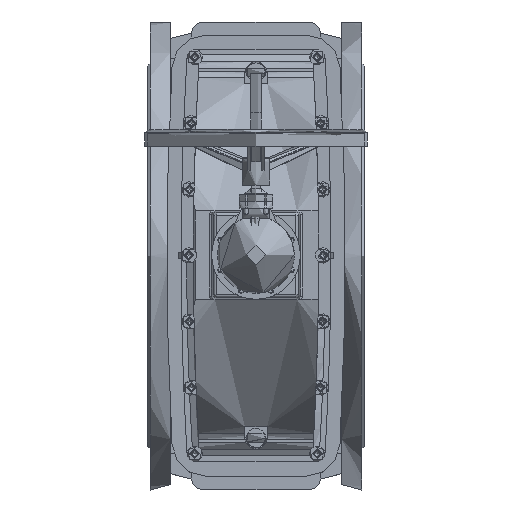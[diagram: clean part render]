
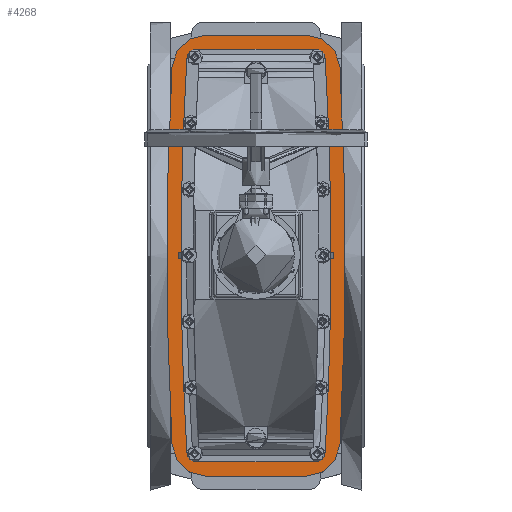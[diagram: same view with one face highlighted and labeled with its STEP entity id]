
A CAD part, top view. The second image highlights one B-rep face of the part: STEP entity #4268.
In plain terms, the highlighted planar face has unit normal (0, 0, 1).
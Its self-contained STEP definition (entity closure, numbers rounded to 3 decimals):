
#4268=ADVANCED_FACE('',(#11167,#11169),#11171,.T.);
#11167=FACE_BOUND('',#11168,.T.);
#11168=EDGE_LOOP('',(#32147,#32148,#32149,#32150,#32151,#32152,#32153,#32154));
#11169=FACE_BOUND('',#11170,.T.);
#11170=EDGE_LOOP('',(#32155,#32156,#32157,#32158,#32159,#32160,#32161,#32162,#32163,
#32164,#32165,#32166,#32167,#32168,#32169,#32170));
#11171=PLANE('',#11172);
#11172=AXIS2_PLACEMENT_3D('',#11173,#11174,#11175);
#11173=CARTESIAN_POINT('',(0.,0.,512.785));
#11174=DIRECTION('',(0.,0.,1.));
#11175=DIRECTION('',(-1.,0.,0.));
#32147=ORIENTED_EDGE('',*,*,#36699,.T.);
#32148=ORIENTED_EDGE('',*,*,#36697,.T.);
#32149=ORIENTED_EDGE('',*,*,#36695,.T.);
#32150=ORIENTED_EDGE('',*,*,#36693,.T.);
#32151=ORIENTED_EDGE('',*,*,#36691,.T.);
#32152=ORIENTED_EDGE('',*,*,#36689,.T.);
#32153=ORIENTED_EDGE('',*,*,#36687,.T.);
#32154=ORIENTED_EDGE('',*,*,#36685,.T.);
#32155=ORIENTED_EDGE('',*,*,#36704,.F.);
#32156=ORIENTED_EDGE('',*,*,#36705,.F.);
#32157=ORIENTED_EDGE('',*,*,#36706,.T.);
#32158=ORIENTED_EDGE('',*,*,#36707,.T.);
#32159=ORIENTED_EDGE('',*,*,#36708,.T.);
#32160=ORIENTED_EDGE('',*,*,#36709,.T.);
#32161=ORIENTED_EDGE('',*,*,#36710,.T.);
#32162=ORIENTED_EDGE('',*,*,#36711,.F.);
#32163=ORIENTED_EDGE('',*,*,#36712,.F.);
#32164=ORIENTED_EDGE('',*,*,#36713,.F.);
#32165=ORIENTED_EDGE('',*,*,#36714,.T.);
#32166=ORIENTED_EDGE('',*,*,#36715,.T.);
#32167=ORIENTED_EDGE('',*,*,#36716,.T.);
#32168=ORIENTED_EDGE('',*,*,#36717,.T.);
#32169=ORIENTED_EDGE('',*,*,#36718,.T.);
#32170=ORIENTED_EDGE('',*,*,#36719,.F.);
#36685=EDGE_CURVE('',#40552,#40550,#40553,.T.);
#36687=EDGE_CURVE('',#40555,#40552,#40556,.T.);
#36689=EDGE_CURVE('',#40558,#40555,#40559,.T.);
#36691=EDGE_CURVE('',#40561,#40558,#40562,.T.);
#36693=EDGE_CURVE('',#40564,#40561,#40565,.T.);
#36695=EDGE_CURVE('',#40567,#40564,#40568,.T.);
#36697=EDGE_CURVE('',#40570,#40567,#40571,.T.);
#36699=EDGE_CURVE('',#40550,#40570,#40573,.T.);
#36704=EDGE_CURVE('',#40582,#40583,#40584,.T.);
#36705=EDGE_CURVE('',#40585,#40582,#40586,.F.);
#36706=EDGE_CURVE('',#40585,#40587,#40588,.F.);
#36707=EDGE_CURVE('',#40587,#40589,#40590,.T.);
#36708=EDGE_CURVE('',#40589,#40591,#40592,.T.);
#36709=EDGE_CURVE('',#40591,#40593,#40594,.T.);
#36710=EDGE_CURVE('',#40593,#40595,#40596,.F.);
#36711=EDGE_CURVE('',#40597,#40595,#40598,.F.);
#36712=EDGE_CURVE('',#40599,#40597,#40600,.T.);
#36713=EDGE_CURVE('',#40601,#40599,#40602,.T.);
#36714=EDGE_CURVE('',#40601,#40603,#40604,.F.);
#36715=EDGE_CURVE('',#40603,#40605,#40606,.T.);
#36716=EDGE_CURVE('',#40605,#40607,#40608,.T.);
#36717=EDGE_CURVE('',#40607,#40609,#40610,.T.);
#36718=EDGE_CURVE('',#40609,#40611,#40612,.F.);
#36719=EDGE_CURVE('',#40583,#40611,#40613,.T.);
#40550=VERTEX_POINT('',#52487);
#40552=VERTEX_POINT('',#52491);
#40553=CIRCLE('',#52492,5978.392);
#40555=VERTEX_POINT('',#52499);
#40556=CIRCLE('',#52500,60.);
#40558=VERTEX_POINT('',#52507);
#40559=LINE('',#52508,#52509);
#40561=VERTEX_POINT('',#52514);
#40562=CIRCLE('',#52515,60.);
#40564=VERTEX_POINT('',#52522);
#40565=CIRCLE('',#52523,5978.392);
#40567=VERTEX_POINT('',#52530);
#40568=CIRCLE('',#52531,60.);
#40570=VERTEX_POINT('',#52538);
#40571=LINE('',#52539,#52540);
#40573=CIRCLE('',#52545,60.);
#40582=VERTEX_POINT('',#52633);
#40583=VERTEX_POINT('',#52634);
#40584=LINE('',#52635,#52636);
#40585=VERTEX_POINT('',#52638);
#40586=LINE('',#52639,#52640);
#40587=VERTEX_POINT('',#52642);
#40588=CIRCLE('',#52643,5930.392);
#40589=VERTEX_POINT('',#52647);
#40590=CIRCLE('',#52648,12.);
#40591=VERTEX_POINT('',#52652);
#40592=LINE('',#52653,#52654);
#40593=VERTEX_POINT('',#52656);
#40594=CIRCLE('',#52657,12.);
#40595=VERTEX_POINT('',#52661);
#40596=CIRCLE('',#52662,5930.392);
#40597=VERTEX_POINT('',#52666);
#40598=LINE('',#52667,#52668);
#40599=VERTEX_POINT('',#52670);
#40600=LINE('',#52671,#52672);
#40601=VERTEX_POINT('',#52674);
#40602=LINE('',#52675,#52676);
#40603=VERTEX_POINT('',#52678);
#40604=CIRCLE('',#52679,5930.392);
#40605=VERTEX_POINT('',#52683);
#40606=CIRCLE('',#52684,12.);
#40607=VERTEX_POINT('',#52688);
#40608=LINE('',#52689,#52690);
#40609=VERTEX_POINT('',#52692);
#40610=CIRCLE('',#52693,12.);
#40611=VERTEX_POINT('',#52697);
#40612=CIRCLE('',#52698,5930.392);
#40613=LINE('',#52702,#52703);
#52487=CARTESIAN_POINT('',(150.77,339.406,512.785));
#52491=CARTESIAN_POINT('',(150.77,-339.406,512.785));
#52492=AXIS2_PLACEMENT_3D('',#52493,#52494,#52495);
#52493=CARTESIAN_POINT('',(-5817.981,0.,512.785));
#52494=DIRECTION('',(0.,0.,1.));
#52495=DIRECTION('',(0.998,-0.057,0.));
#52499=CARTESIAN_POINT('',(90.866,-396.,512.785));
#52500=AXIS2_PLACEMENT_3D('',#52501,#52502,#52503);
#52501=CARTESIAN_POINT('',(90.866,-336.,512.785));
#52502=DIRECTION('',(0.,0.,1.));
#52503=DIRECTION('',(0.,-1.,0.));
#52507=CARTESIAN_POINT('',(-90.866,-396.,512.785));
#52508=CARTESIAN_POINT('',(-90.866,-396.,512.785));
#52509=VECTOR('',#52510,1.);
#52510=DIRECTION('',(1.,0.,0.));
#52514=CARTESIAN_POINT('',(-150.77,-339.406,512.785));
#52515=AXIS2_PLACEMENT_3D('',#52516,#52517,#52518);
#52516=CARTESIAN_POINT('',(-90.866,-336.,512.785));
#52517=DIRECTION('',(0.,0.,1.));
#52518=DIRECTION('',(-0.998,-0.057,0.));
#52522=CARTESIAN_POINT('',(-150.77,339.406,512.785));
#52523=AXIS2_PLACEMENT_3D('',#52524,#52525,#52526);
#52524=CARTESIAN_POINT('',(5817.981,0.,512.785));
#52525=DIRECTION('',(0.,0.,1.));
#52526=DIRECTION('',(-0.998,0.057,0.));
#52530=CARTESIAN_POINT('',(-90.866,396.,512.785));
#52531=AXIS2_PLACEMENT_3D('',#52532,#52533,#52534);
#52532=CARTESIAN_POINT('',(-90.866,336.,512.785));
#52533=DIRECTION('',(0.,0.,1.));
#52534=DIRECTION('',(0.,1.,0.));
#52538=CARTESIAN_POINT('',(90.866,396.,512.785));
#52539=CARTESIAN_POINT('',(90.866,396.,512.785));
#52540=VECTOR('',#52541,1.);
#52541=DIRECTION('',(-1.,0.,0.));
#52545=AXIS2_PLACEMENT_3D('',#52546,#52547,#52548);
#52546=CARTESIAN_POINT('',(90.866,336.,512.785));
#52547=DIRECTION('',(0.,0.,1.));
#52548=DIRECTION('',(0.998,0.057,0.));
#52633=CARTESIAN_POINT('',(139.449,-6.,512.785));
#52634=CARTESIAN_POINT('',(139.449,6.,512.785));
#52635=CARTESIAN_POINT('',(139.449,-6.,512.785));
#52636=VECTOR('',#52637,1.);
#52637=DIRECTION('',(0.,1.,0.));
#52638=CARTESIAN_POINT('',(112.409,-6.,512.785));
#52639=CARTESIAN_POINT('',(139.449,-6.,512.785));
#52640=VECTOR('',#52641,1.);
#52641=DIRECTION('',(-1.,0.,0.));
#52642=CARTESIAN_POINT('',(102.847,-336.681,512.785));
#52643=AXIS2_PLACEMENT_3D('',#52644,#52645,#52646);
#52644=CARTESIAN_POINT('',(-5817.981,0.,512.785));
#52645=DIRECTION('',(0.,0.,1.));
#52646=DIRECTION('',(0.998,-0.057,0.));
#52647=CARTESIAN_POINT('',(90.866,-348.,512.785));
#52648=AXIS2_PLACEMENT_3D('',#52649,#52650,#52651);
#52649=CARTESIAN_POINT('',(90.866,-336.,512.785));
#52650=DIRECTION('',(0.,0.,-1.));
#52651=DIRECTION('',(0.998,-0.057,0.));
#52652=CARTESIAN_POINT('',(-90.866,-348.,512.785));
#52653=CARTESIAN_POINT('',(90.866,-348.,512.785));
#52654=VECTOR('',#52655,1.);
#52655=DIRECTION('',(-1.,0.,0.));
#52656=CARTESIAN_POINT('',(-102.847,-336.681,512.785));
#52657=AXIS2_PLACEMENT_3D('',#52658,#52659,#52660);
#52658=CARTESIAN_POINT('',(-90.866,-336.,512.785));
#52659=DIRECTION('',(0.,0.,-1.));
#52660=DIRECTION('',(0.,-1.,0.));
#52661=CARTESIAN_POINT('',(-112.409,-6.,512.785));
#52662=AXIS2_PLACEMENT_3D('',#52663,#52664,#52665);
#52663=CARTESIAN_POINT('',(5817.981,0.,512.785));
#52664=DIRECTION('',(0.,0.,1.));
#52665=DIRECTION('',(-1.,-0.001,0.));
#52666=CARTESIAN_POINT('',(-139.449,-6.,512.785));
#52667=CARTESIAN_POINT('',(-112.409,-6.,512.785));
#52668=VECTOR('',#52669,1.);
#52669=DIRECTION('',(-1.,0.,0.));
#52670=CARTESIAN_POINT('',(-139.449,6.,512.785));
#52671=CARTESIAN_POINT('',(-139.449,6.,512.785));
#52672=VECTOR('',#52673,1.);
#52673=DIRECTION('',(0.,-1.,0.));
#52674=CARTESIAN_POINT('',(-112.409,6.,512.785));
#52675=CARTESIAN_POINT('',(-112.409,6.,512.785));
#52676=VECTOR('',#52677,1.);
#52677=DIRECTION('',(-1.,0.,0.));
#52678=CARTESIAN_POINT('',(-102.847,336.681,512.785));
#52679=AXIS2_PLACEMENT_3D('',#52680,#52681,#52682);
#52680=CARTESIAN_POINT('',(5817.981,0.,512.785));
#52681=DIRECTION('',(0.,0.,1.));
#52682=DIRECTION('',(-0.998,0.057,0.));
#52683=CARTESIAN_POINT('',(-90.866,348.,512.785));
#52684=AXIS2_PLACEMENT_3D('',#52685,#52686,#52687);
#52685=CARTESIAN_POINT('',(-90.866,336.,512.785));
#52686=DIRECTION('',(0.,0.,-1.));
#52687=DIRECTION('',(-0.998,0.057,0.));
#52688=CARTESIAN_POINT('',(90.866,348.,512.785));
#52689=CARTESIAN_POINT('',(-90.866,348.,512.785));
#52690=VECTOR('',#52691,1.);
#52691=DIRECTION('',(1.,0.,0.));
#52692=CARTESIAN_POINT('',(102.847,336.681,512.785));
#52693=AXIS2_PLACEMENT_3D('',#52694,#52695,#52696);
#52694=CARTESIAN_POINT('',(90.866,336.,512.785));
#52695=DIRECTION('',(0.,0.,-1.));
#52696=DIRECTION('',(0.,1.,0.));
#52697=CARTESIAN_POINT('',(112.409,6.,512.785));
#52698=AXIS2_PLACEMENT_3D('',#52699,#52700,#52701);
#52699=CARTESIAN_POINT('',(-5817.981,0.,512.785));
#52700=DIRECTION('',(0.,0.,1.));
#52701=DIRECTION('',(1.,0.001,0.));
#52702=CARTESIAN_POINT('',(139.449,6.,512.785));
#52703=VECTOR('',#52704,1.);
#52704=DIRECTION('',(-1.,0.,0.));
